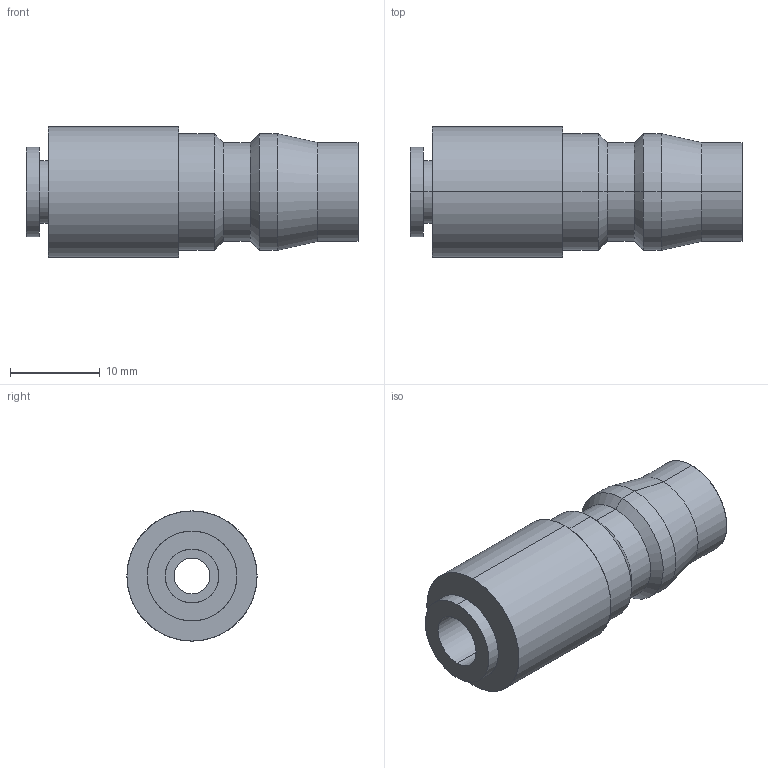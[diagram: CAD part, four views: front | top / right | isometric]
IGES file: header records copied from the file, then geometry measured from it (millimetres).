
Start section: SolidWorks IGES file using analytic representation for surfaces
Global section: file name: C:\Documents and Settings\CAD58\デスクトップ\322948.IGS; native system: SolidWorks 2006 by SolidWorks Corporation; preprocessor: SolidWorks 2006 by SolidWorks Corporation; author: CAD58; date: 080915.143027; units: millimetre
Bounding box: 37 x 14.5 x 14.5 mm (x, y, z)
Surface area: 2620.5 mm2 (no closed solid volume)
Topology: 0 solids, 0 shells, 33 faces, 552 edges, 552 vertices
Faces by surface type: revolution 26, bspline 7
